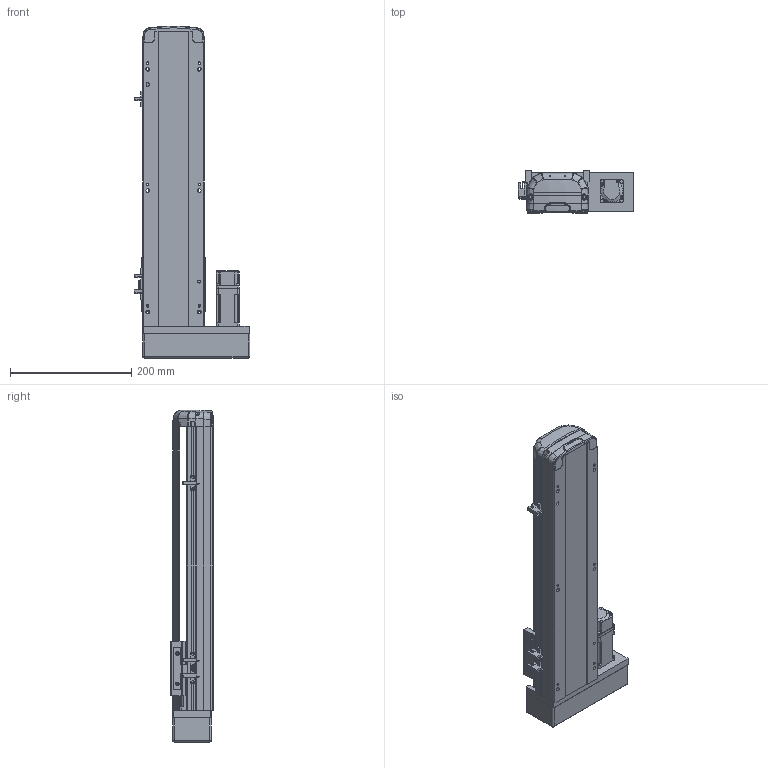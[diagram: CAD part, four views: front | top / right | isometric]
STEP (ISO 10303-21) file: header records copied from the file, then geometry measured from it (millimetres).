
FILE_DESCRIPTION (( 'STEP AP214' ), '1' );
FILE_NAME ('RTH10-XX-300-R-M10-C4.STEP', '2025-10-25T05:52:51', ( 'Microsoft' ), ( 'Microsoft' ), 'SwSTEP 2.0', 'SolidWorks 2018', '' );
FILE_SCHEMA (( 'AUTOMOTIVE_DESIGN' ));
Length unit declared in the file: millimetre
Products named in the file (10): N_RTH12-M-007P-奻裔^RTH10-XX-100-R-M10-C4; N_RTH12-L-018-裔赽^RTH10-XX-100-R-M10-C4; N_RTH12-L-008萇儂啣^RTH10-XX-100-R-M10-C4; N_OMRON EE-SX672 传感器^RTH10-XX-100-R-M10-C4; N_RTH13-L-012覜茼え俋离^RTH10-XX-100-R-M10-C4; RTH10-XX-300-R-M10-C4; N_RTH12-GY-001P^RTH10-XX-100-R-M10-C4; N_RTH12-M-011P-臏倰第菁釱^RTH10-XX-100-R-M10-C4; N_RTH12-GY-004-賑釱^RTH10-XX-100-R-M10-C4; N_P10^RTH10-XX-100-R-M10-C4
Assembly tree (11 placements, depth 2):
  RTH10-XX-300-R-M10-C4
    N_RTH12-M-011P-臏倰第菁釱^RTH10-XX-100-R-M10-C4
    N_RTH13-L-012覜茼え俋离^RTH10-XX-100-R-M10-C4
    N_OMRON EE-SX672 传感器^RTH10-XX-100-R-M10-C4  x3
    N_P10^RTH10-XX-100-R-M10-C4
    N_RTH12-M-007P-奻裔^RTH10-XX-100-R-M10-C4
    N_RTH12-L-008萇儂啣^RTH10-XX-100-R-M10-C4
    N_RTH12-L-018-裔赽^RTH10-XX-100-R-M10-C4
    N_RTH12-GY-004-賑釱^RTH10-XX-100-R-M10-C4
    N_RTH12-GY-001P^RTH10-XX-100-R-M10-C4
Bounding box: 190 x 70 x 547.31 mm (x, y, z)
Volume: 2647804 mm3; surface area: 420436.9 mm2
Topology: 10 solids, 12 shells, 1880 faces, 5224 edges, 3425 vertices
Faces by surface type: plane 939, bspline 472, cylinder 434, cone 29, sphere 4, torus 2
Entity records: 56104 total; most frequent: CARTESIAN_POINT 22649, ORIENTED_EDGE 7520, DIRECTION 5706, EDGE_CURVE 3766, VERTEX_POINT 2469, VECTOR 1990, LINE 1990, AXIS2_PLACEMENT_3D 1858
